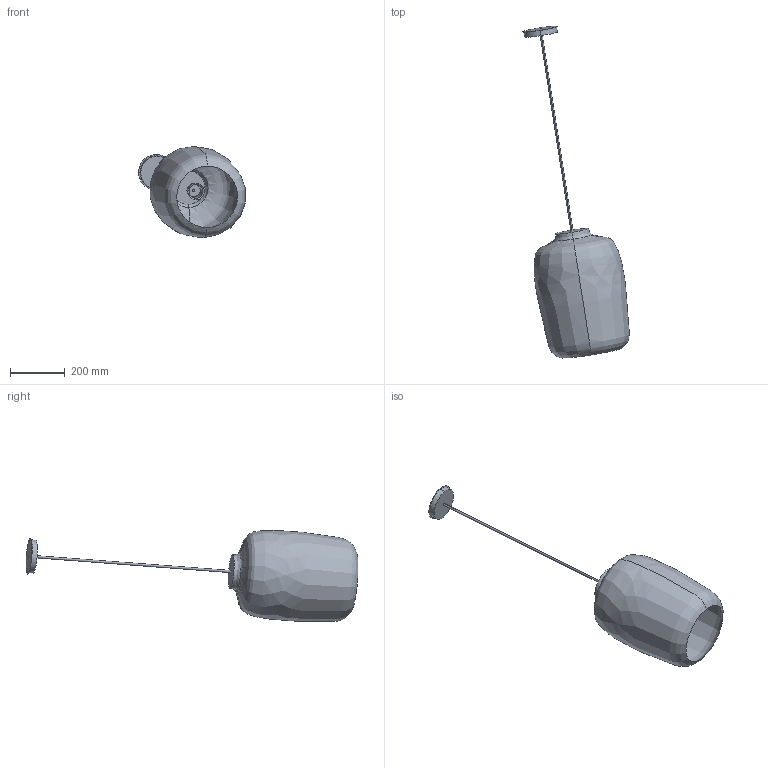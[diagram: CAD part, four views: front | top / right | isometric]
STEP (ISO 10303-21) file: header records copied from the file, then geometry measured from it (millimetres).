
FILE_DESCRIPTION(('STEP AP214'),'1');
FILE_NAME('Laut.stp','2018-12-13T13:18:59',(' '),(' '),'Spatial InterOp 3D',' ',' ');
FILE_SCHEMA(('AUTOMOTIVE_DESIGN { 1 0 10303 214 1 1 1 1 }'));
Length unit declared in the file: metre
Products named in the file (5): Laut_D; Laut_D Geometry; Laut; Laut Geometry
Assembly tree (4 placements, depth 4):
  Laut
    Laut_D
      Laut_D Geometry
      Laut
        Laut Geometry
Bounding box: 389.2 x 1209.62 x 332.04 mm (x, y, z)
Volume: 225189.4 mm3; surface area: 545003.3 mm2
Topology: 1 solids, 6 shells, 21 faces, 54 edges, 40 vertices
Faces by surface type: cylinder 8, plane 5, revolution 4, torus 4
Entity records: 1230 total; most frequent: CARTESIAN_POINT 318, DIRECTION 144, ORIENTED_EDGE 91, AXIS2_PLACEMENT_3D 66, EDGE_CURVE 54, CIRCLE 42, VERTEX_POINT 38, STYLED_ITEM 31
